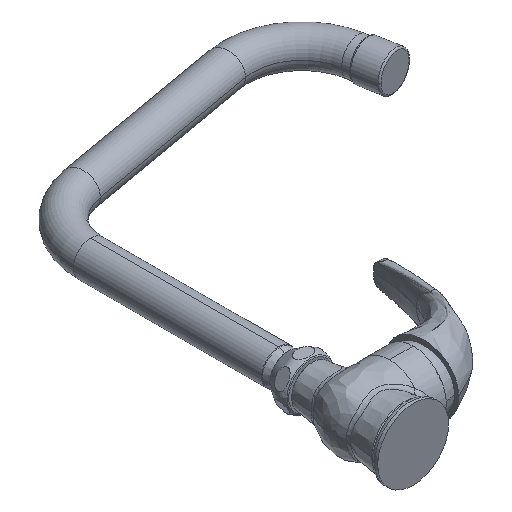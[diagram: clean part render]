
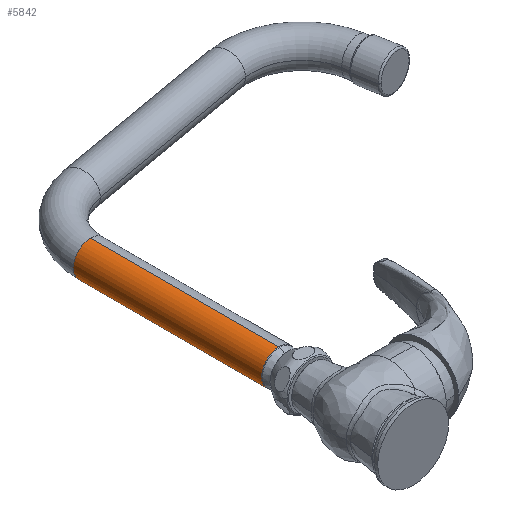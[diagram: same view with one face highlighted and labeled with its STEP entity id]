
A CAD part, isometric view. The second image highlights one B-rep face of the part: STEP entity #5842.
In plain terms, the highlighted cylindrical face has radius 11 mm (diameter 22 mm), a partial arc.
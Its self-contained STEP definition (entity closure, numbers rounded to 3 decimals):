
#230 = DIRECTION ( 'NONE',  ( 0., -1., 0. ) ) ;
#345 = CARTESIAN_POINT ( 'NONE',  ( 0., 80., -11. ) ) ;
#418 = DIRECTION ( 'NONE',  ( 0., 0., 1. ) ) ;
#518 = LINE ( 'NONE', #1145, #8683 ) ;
#979 = EDGE_CURVE ( 'NONE', #4359, #2159, #3786, .T. ) ;
#1017 = DIRECTION ( 'NONE',  ( 0., -1., 0. ) ) ;
#1145 = CARTESIAN_POINT ( 'NONE',  ( 0., 80., 11. ) ) ;
#1249 = CIRCLE ( 'NONE', #5436, 11. ) ;
#1310 = ORIENTED_EDGE ( 'NONE', *, *, #4510, .T. ) ;
#1674 = DIRECTION ( 'NONE',  ( 0., 1., 0. ) ) ;
#1907 = DIRECTION ( 'NONE',  ( 0., 1., 0. ) ) ;
#2159 = VERTEX_POINT ( 'NONE', #6216 ) ;
#2166 = ORIENTED_EDGE ( 'NONE', *, *, #7216, .T. ) ;
#2224 = AXIS2_PLACEMENT_3D ( 'NONE', #5257, #7460, #418 ) ;
#2529 = CARTESIAN_POINT ( 'NONE',  ( 0., 80.236, -11. ) ) ;
#2716 = VERTEX_POINT ( 'NONE', #6794 ) ;
#2999 = DIRECTION ( 'NONE',  ( 0., 0., -1. ) ) ;
#3092 = CARTESIAN_POINT ( 'NONE',  ( 0., 199.758, 0. ) ) ;
#3194 = DIRECTION ( 'NONE',  ( 0., 0., -1. ) ) ;
#3748 = VERTEX_POINT ( 'NONE', #7302 ) ;
#3786 = CIRCLE ( 'NONE', #8755, 11. ) ;
#4219 = AXIS2_PLACEMENT_3D ( 'NONE', #3092, #230, #2999 ) ;
#4359 = VERTEX_POINT ( 'NONE', #2529 ) ;
#4483 = FACE_OUTER_BOUND ( 'NONE', #5491, .T. ) ;
#4510 = EDGE_CURVE ( 'NONE', #3748, #2716, #1249, .T. ) ;
#4534 = CYLINDRICAL_SURFACE ( 'NONE', #2224, 11. ) ;
#4587 = ORIENTED_EDGE ( 'NONE', *, *, #8864, .T. ) ;
#4597 = CARTESIAN_POINT ( 'NONE',  ( 0., 199.758, 0. ) ) ;
#4909 = DIRECTION ( 'NONE',  ( 0., 0., 1. ) ) ;
#5257 = CARTESIAN_POINT ( 'NONE',  ( 0., 80., 0. ) ) ;
#5436 = AXIS2_PLACEMENT_3D ( 'NONE', #4597, #1017, #3194 ) ;
#5491 = EDGE_LOOP ( 'NONE', ( #5631, #9010, #2166, #4587, #1310 ) ) ;
#5518 = CARTESIAN_POINT ( 'NONE',  ( 0., 80.236, 0. ) ) ;
#5631 = ORIENTED_EDGE ( 'NONE', *, *, #6599, .F. ) ;
#5842 = ADVANCED_FACE ( 'NONE', ( #4483 ), #4534, .T. ) ;
#6216 = CARTESIAN_POINT ( 'NONE',  ( 0., 80.236, 11. ) ) ;
#6328 = VERTEX_POINT ( 'NONE', #7777 ) ;
#6399 = CIRCLE ( 'NONE', #4219, 11. ) ;
#6599 = EDGE_CURVE ( 'NONE', #4359, #2716, #7393, .T. ) ;
#6794 = CARTESIAN_POINT ( 'NONE',  ( 0., 199.758, -11. ) ) ;
#7216 = EDGE_CURVE ( 'NONE', #2159, #6328, #518, .T. ) ;
#7302 = CARTESIAN_POINT ( 'NONE',  ( -11., 199.758, 0. ) ) ;
#7393 = LINE ( 'NONE', #345, #8466 ) ;
#7460 = DIRECTION ( 'NONE',  ( 0., 1., 0. ) ) ;
#7777 = CARTESIAN_POINT ( 'NONE',  ( 0., 199.758, 11. ) ) ;
#8466 = VECTOR ( 'NONE', #1674, 1000. ) ;
#8683 = VECTOR ( 'NONE', #1907, 1000. ) ;
#8755 = AXIS2_PLACEMENT_3D ( 'NONE', #5518, #9026, #4909 ) ;
#8864 = EDGE_CURVE ( 'NONE', #6328, #3748, #6399, .T. ) ;
#9010 = ORIENTED_EDGE ( 'NONE', *, *, #979, .T. ) ;
#9026 = DIRECTION ( 'NONE',  ( 0., 1., 0. ) ) ;
